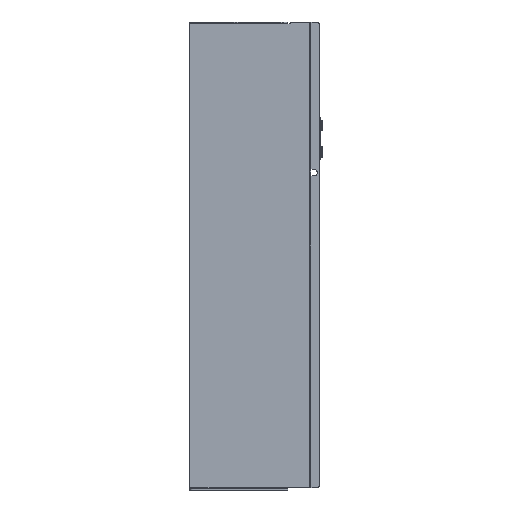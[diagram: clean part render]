
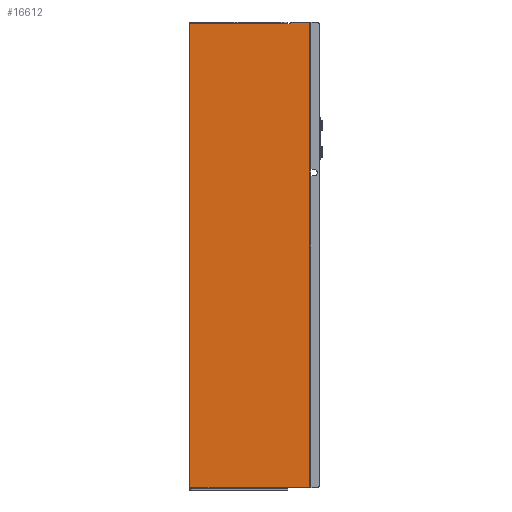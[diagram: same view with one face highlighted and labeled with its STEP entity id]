
A CAD part, left-side view. The second image highlights one B-rep face of the part: STEP entity #16612.
In plain terms, the highlighted planar face has unit normal (-1, 0, 0).
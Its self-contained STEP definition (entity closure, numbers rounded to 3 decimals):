
#32 = LINE ( 'NONE', #15628, #13386 ) ;
#81 = DIRECTION ( 'NONE',  ( 0., -1., 0. ) ) ;
#444 = DIRECTION ( 'NONE',  ( 0., 0., -1. ) ) ;
#458 = LINE ( 'NONE', #2802, #10347 ) ;
#680 = EDGE_CURVE ( 'NONE', #16697, #12471, #458, .T. ) ;
#683 = VECTOR ( 'NONE', #10516, 1000. ) ;
#699 = EDGE_CURVE ( 'NONE', #11040, #12697, #32, .T. ) ;
#1361 = DIRECTION ( 'NONE',  ( 0., 0., 1. ) ) ;
#1432 = EDGE_CURVE ( 'NONE', #13654, #10039, #3611, .T. ) ;
#2670 = CARTESIAN_POINT ( 'NONE',  ( 0., 0., 218.8 ) ) ;
#2745 = EDGE_CURVE ( 'NONE', #13654, #11040, #11090, .T. ) ;
#2802 = CARTESIAN_POINT ( 'NONE',  ( 0., 20.5, -219. ) ) ;
#2929 = DIRECTION ( 'NONE',  ( -1., 0., 0. ) ) ;
#2968 = CARTESIAN_POINT ( 'NONE',  ( 0., 113., 218.8 ) ) ;
#3150 = ORIENTED_EDGE ( 'NONE', *, *, #16520, .T. ) ;
#3233 = ORIENTED_EDGE ( 'NONE', *, *, #1432, .F. ) ;
#3611 = LINE ( 'NONE', #6887, #16586 ) ;
#3802 = CARTESIAN_POINT ( 'NONE',  ( 0., 20.5, 220. ) ) ;
#4016 = EDGE_LOOP ( 'NONE', ( #8519, #4606, #4438, #7789, #3150, #3233, #11274, #6781 ) ) ;
#4346 = VERTEX_POINT ( 'NONE', #6822 ) ;
#4438 = ORIENTED_EDGE ( 'NONE', *, *, #15825, .T. ) ;
#4606 = ORIENTED_EDGE ( 'NONE', *, *, #9381, .F. ) ;
#5608 = DIRECTION ( 'NONE',  ( 0., -1., 0. ) ) ;
#5725 = VECTOR ( 'NONE', #15554, 1000. ) ;
#5838 = VECTOR ( 'NONE', #81, 1000. ) ;
#6120 = LINE ( 'NONE', #16757, #5725 ) ;
#6462 = CARTESIAN_POINT ( 'NONE',  ( 0., 18.5, 220. ) ) ;
#6781 = ORIENTED_EDGE ( 'NONE', *, *, #699, .T. ) ;
#6822 = CARTESIAN_POINT ( 'NONE',  ( 0., 20.5, 218.8 ) ) ;
#6887 = CARTESIAN_POINT ( 'NONE',  ( 0., 0., 220. ) ) ;
#7410 = AXIS2_PLACEMENT_3D ( 'NONE', #10685, #2929, #11987 ) ;
#7789 = ORIENTED_EDGE ( 'NONE', *, *, #680, .T. ) ;
#8176 = CARTESIAN_POINT ( 'NONE',  ( 0., 18.5, 220. ) ) ;
#8360 = CARTESIAN_POINT ( 'NONE',  ( 0., 20.5, 218.5 ) ) ;
#8519 = ORIENTED_EDGE ( 'NONE', *, *, #12443, .T. ) ;
#9381 = EDGE_CURVE ( 'NONE', #10850, #4346, #12739, .T. ) ;
#9968 = CARTESIAN_POINT ( 'NONE',  ( 0., 0., 220. ) ) ;
#10039 = VERTEX_POINT ( 'NONE', #9968 ) ;
#10347 = VECTOR ( 'NONE', #5608, 1000. ) ;
#10450 = CARTESIAN_POINT ( 'NONE',  ( 0., 0., -219. ) ) ;
#10516 = DIRECTION ( 'NONE',  ( 0., 0., 1. ) ) ;
#10685 = CARTESIAN_POINT ( 'NONE',  ( 0., 0., 220. ) ) ;
#10850 = VERTEX_POINT ( 'NONE', #2968 ) ;
#11040 = VERTEX_POINT ( 'NONE', #14828 ) ;
#11090 = LINE ( 'NONE', #8176, #15329 ) ;
#11274 = ORIENTED_EDGE ( 'NONE', *, *, #2745, .T. ) ;
#11987 = DIRECTION ( 'NONE',  ( 0., 0., -1. ) ) ;
#12393 = FACE_OUTER_BOUND ( 'NONE', #4016, .T. ) ;
#12443 = EDGE_CURVE ( 'NONE', #12697, #4346, #13595, .T. ) ;
#12471 = VERTEX_POINT ( 'NONE', #10450 ) ;
#12697 = VERTEX_POINT ( 'NONE', #8360 ) ;
#12739 = LINE ( 'NONE', #2670, #5838 ) ;
#13201 = VECTOR ( 'NONE', #1361, 1000. ) ;
#13386 = VECTOR ( 'NONE', #15817, 1000. ) ;
#13595 = LINE ( 'NONE', #3802, #13201 ) ;
#13601 = LINE ( 'NONE', #15644, #683 ) ;
#13654 = VERTEX_POINT ( 'NONE', #6462 ) ;
#14828 = CARTESIAN_POINT ( 'NONE',  ( 0., 18.5, 218.5 ) ) ;
#15211 = CARTESIAN_POINT ( 'NONE',  ( 0., 113., -219. ) ) ;
#15329 = VECTOR ( 'NONE', #444, 1000. ) ;
#15554 = DIRECTION ( 'NONE',  ( 0., 0., -1. ) ) ;
#15628 = CARTESIAN_POINT ( 'NONE',  ( 0., 20.5, 218.5 ) ) ;
#15644 = CARTESIAN_POINT ( 'NONE',  ( 0., 0., 220. ) ) ;
#15817 = DIRECTION ( 'NONE',  ( 0., 1., 0. ) ) ;
#15825 = EDGE_CURVE ( 'NONE', #10850, #16697, #6120, .T. ) ;
#15840 = PLANE ( 'NONE',  #7410 ) ;
#16375 = DIRECTION ( 'NONE',  ( 0., -1., 0. ) ) ;
#16520 = EDGE_CURVE ( 'NONE', #12471, #10039, #13601, .T. ) ;
#16586 = VECTOR ( 'NONE', #16375, 1000. ) ;
#16612 = ADVANCED_FACE ( 'NONE', ( #12393 ), #15840, .T. ) ;
#16697 = VERTEX_POINT ( 'NONE', #15211 ) ;
#16757 = CARTESIAN_POINT ( 'NONE',  ( 0., 113., 220. ) ) ;
